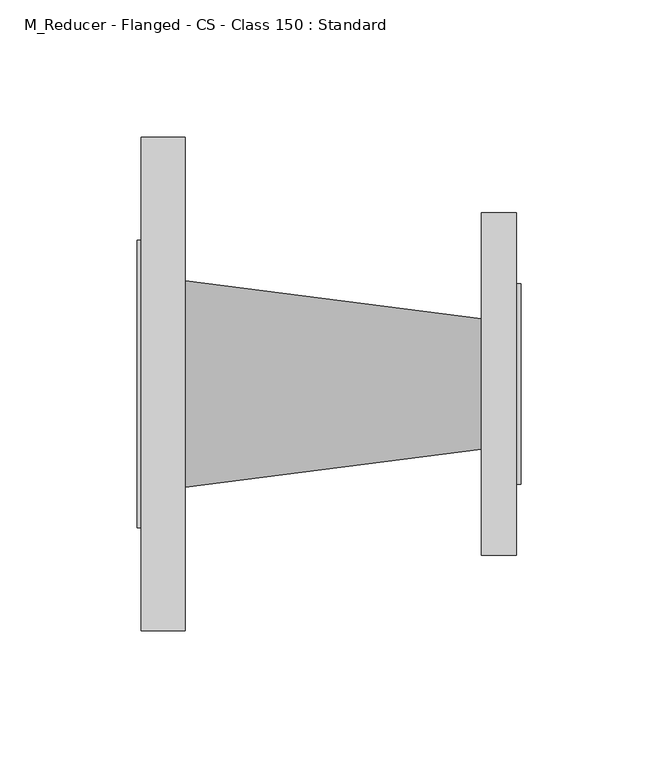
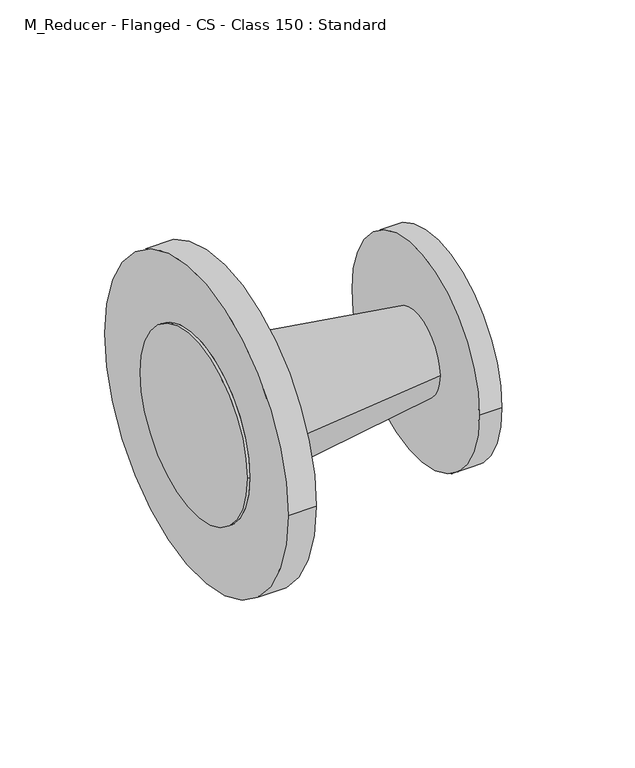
"""IFC4 building model written with IfcOpenShell, lengths in millimetres: pipe fitting geometry, M_Reducer - Flanged - CS - Class 150 : Standard."""

from ifc_helpers import new_model, si_unit, frame, origin, place, context, project, spatial, polyline, circle_curve, source, transform, mapped, element, save
from ifc_brep_helpers import plane_surface, cylinder_surface, revolved_surface, advanced_brep


def m_reducer_flanged_cs_class_150_standard_aac2962f(model_context):
    return source(origin(), model_context, "Body", "AdvancedBrep", [
        advanced_brep(
        [(17.4875, -90.0, 0.0), (17.4875, 90.0, 0.0), (17.4875, 37.6, 0.0), (17.4875, -37.6, 0.0), (1.5875, -90.0, 0.0), (1.5875, 90.0, 0.0), (1.5875, -52.4, 0.0), (1.5875, 52.4, 0.0), (125.7125, 23.8, 0.0), (125.7125, -23.8, 0.0), (138.4125, -62.5, 0.0), (138.4125, 62.5, 0.0), (138.4125, 36.5, 0.0), (138.4125, -36.5, 0.0), (125.7125, -62.5, 0.0), (125.7125, 62.5, 0.0), (0.0, -52.4, 0.0), (0.0, 52.4, 0.0), (140.0, -36.5, 0.0), (140.0, 36.5, 0.0)],
        [
            (0, 1, circle_curve(frame((17.4875, 0.0, 0.0), z_axis=(1.0, 0.0, 0.0), x_axis=(0.0, 1.0, 0.0)), 90.0)),
            (1, 0, circle_curve(frame((17.4875, 0.0, 0.0), z_axis=(1.0, 0.0, 0.0), x_axis=(0.0, 1.0, 0.0)), 90.0)),
            (2, 3, circle_curve(frame((17.4875, 0.0, 0.0), z_axis=(-1.0, 0.0, 0.0), x_axis=(0.0, -1.0, 0.0)), 37.6)),
            (3, 2, circle_curve(frame((17.4875, 0.0, 0.0), z_axis=(-1.0, 0.0, 0.0), x_axis=(0.0, 1.0, 0.0)), 37.6)),
            (4, 5, circle_curve(frame((1.5875, 0.0, 0.0), z_axis=(-1.0, 0.0, 0.0), x_axis=(0.0, 1.0, 0.0)), 90.0)),
            (5, 4, circle_curve(frame((1.5875, 0.0, 0.0), z_axis=(-1.0, 0.0, 0.0), x_axis=(0.0, 1.0, 0.0)), 90.0)),
            (6, 7, circle_curve(frame((1.5875, 0.0, 0.0), z_axis=(1.0, 0.0, 0.0), x_axis=(0.0, 1.0, 0.0)), 52.4)),
            (7, 6, circle_curve(frame((1.5875, 0.0, 0.0), z_axis=(1.0, 0.0, 0.0), x_axis=(0.0, 1.0, 0.0)), 52.4)),
            (0, 4),
            (5, 1),
            (2, 8),
            (8, 9, circle_curve(frame((125.7125, 0.0, 0.0), z_axis=(-1.0, 0.0, 0.0), x_axis=(0.0, -1.0, 0.0)), 23.8)),
            (9, 3),
            (9, 8, circle_curve(frame((125.7125, 0.0, 0.0), z_axis=(-1.0, 0.0, 0.0), x_axis=(0.0, 1.0, 0.0)), 23.8)),
            (10, 11, circle_curve(frame((138.4125, 0.0, 0.0), z_axis=(1.0, 0.0, 0.0), x_axis=(0.0, 1.0, 0.0)), 62.5)),
            (11, 10, circle_curve(frame((138.4125, 0.0, 0.0), z_axis=(1.0, 0.0, 0.0), x_axis=(0.0, 1.0, 0.0)), 62.5)),
            (12, 13, circle_curve(frame((138.4125, 0.0, 0.0), z_axis=(-1.0, 0.0, 0.0), x_axis=(0.0, 1.0, 0.0)), 36.5)),
            (13, 12, circle_curve(frame((138.4125, 0.0, 0.0), z_axis=(-1.0, 0.0, 0.0), x_axis=(0.0, 1.0, 0.0)), 36.5)),
            (14, 15, circle_curve(frame((125.7125, 0.0, 0.0), z_axis=(-1.0, 0.0, 0.0), x_axis=(0.0, 1.0, 0.0)), 62.5)),
            (15, 14, circle_curve(frame((125.7125, 0.0, 0.0), z_axis=(-1.0, 0.0, 0.0), x_axis=(0.0, 1.0, 0.0)), 62.5)),
            (10, 14),
            (15, 11),
            (16, 17, circle_curve(frame((0.0, 0.0, 0.0), z_axis=(-1.0, 0.0, 0.0), x_axis=(0.0, 1.0, 0.0)), 52.4)),
            (17, 16, circle_curve(frame((0.0, 0.0, 0.0), z_axis=(-1.0, 0.0, 0.0), x_axis=(0.0, 1.0, 0.0)), 52.4)),
            (17, 7),
            (6, 16),
            (18, 19, circle_curve(frame((140.0, 0.0, 0.0), z_axis=(1.0, 0.0, 0.0), x_axis=(0.0, 1.0, 0.0)), 36.5)),
            (19, 18, circle_curve(frame((140.0, 0.0, 0.0), z_axis=(1.0, 0.0, 0.0), x_axis=(0.0, 1.0, 0.0)), 36.5)),
            (18, 13),
            (12, 19),
        ],
        [
            plane_surface(frame((17.4875, 90.0, 0.0), z_axis=(1.0, 0.0, 0.0), x_axis=(0.0, 0.0, 1.0))),
            plane_surface(frame((1.5875, 90.0, 0.0), z_axis=(-1.0, 0.0, 0.0), x_axis=(0.0, 0.0, -1.0))),
            cylinder_surface(frame((1.5875, 0.0, 0.0), z_axis=(1.0, 0.0, 0.0), x_axis=(0.0, 1.0, 0.0)), 90.0),
            revolved_surface(polyline([(125.7125, 23.799999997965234, 0.0), (17.48750000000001, 37.6, 0.0)]), (312.361413, 0.0, 0.0), (-1.0, 0.0, 0.0)),
            plane_surface(frame((138.4125, 62.5, 0.0), z_axis=(1.0, 0.0, 0.0), x_axis=(0.0, 0.0, 1.0))),
            plane_surface(frame((125.7125, 62.5, 0.0), z_axis=(-1.0, 0.0, 0.0), x_axis=(0.0, 0.0, -1.0))),
            cylinder_surface(frame((125.7125, 0.0, 0.0), z_axis=(1.0, 0.0, 0.0), x_axis=(0.0, 1.0, 0.0)), 62.5),
            plane_surface(frame((0.0, 52.4, 0.0), z_axis=(-1.0, 0.0, 0.0), x_axis=(0.0, 0.0, -1.0))),
            cylinder_surface(frame((0.0, 0.0, 0.0), z_axis=(1.0, 0.0, 0.0), x_axis=(0.0, 1.0, 0.0)), 52.4),
            plane_surface(frame((140.0, 36.5, 0.0), z_axis=(1.0, 0.0, 0.0), x_axis=(0.0, 0.0, 1.0))),
            cylinder_surface(frame((138.4125, 0.0, 0.0), z_axis=(1.0, 0.0, 0.0), x_axis=(0.0, 1.0, 0.0)), 36.5),
        ],
        [
            (0, [[1, 2], [3, 4]]),
            (1, [[5, 6], [7, 8]]),
            (2, [[-1, 9, -6, 10]]),
            (2, [[-2, -10, -5, -9]]),
            (3, [[11, 12, 13, -3]]),
            (3, [[-11, -4, -13, 14]]),
            (4, [[15, 16], [17, 18]]),
            (5, [[19, 20], [-12, -14]]),
            (6, [[-15, 21, -20, 22]]),
            (6, [[-16, -22, -19, -21]]),
            (7, [[23, 24]]),
            (8, [[-24, 25, -7, 26]]),
            (8, [[-23, -26, -8, -25]]),
            (9, [[27, 28]]),
            (10, [[-27, 29, -17, 30]]),
            (10, [[-28, -30, -18, -29]]),
        ],
    ),
    ])


if __name__ == "__main__":
    model = new_model("IFC4")
    model_context = context("Model", 3, world=origin())
    ifc_project = project(units=[si_unit("LENGTHUNIT", "METRE", prefix="MILLI")], contexts=[model_context])
    site = spatial("IfcSite", under=ifc_project)
    building = spatial("IfcBuilding", under=site)
    placement = place(None, origin())
    m_reducer_flanged_cs_class_150_standard_shape = m_reducer_flanged_cs_class_150_standard_aac2962f(model_context)
    element("IfcPipeFitting", 1, ObjectType="M_Reducer - Flanged - CS - Class 150 : Standard", at=placement, inside=building, context=model_context, shape_type="MappedRepresentation", body=[
        mapped(m_reducer_flanged_cs_class_150_standard_shape, transform((0.0, 0.0, 0.0), x_axis=(1.0, 0.0, 0.0), y_axis=(0.0, 1.0, 0.0), z_axis=(0.0, 0.0, 1.0))),
    ])
    save(model, "model.ifc")
